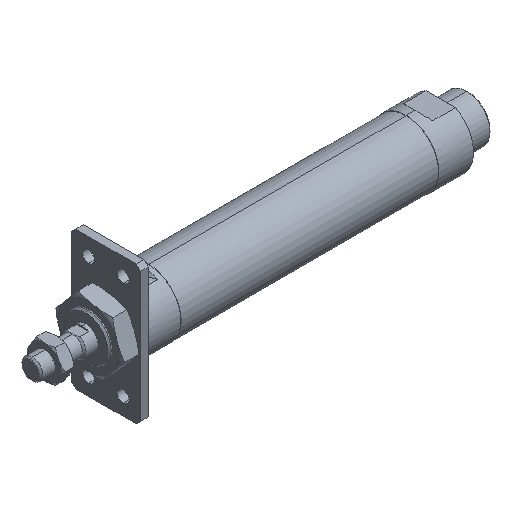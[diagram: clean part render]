
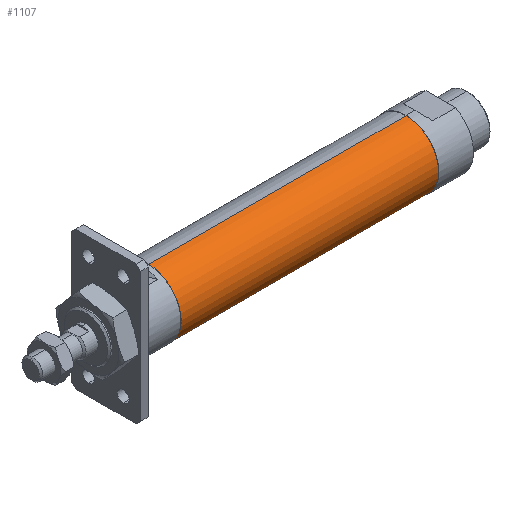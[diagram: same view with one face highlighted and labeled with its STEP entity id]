
A CAD part, isometric view. The second image highlights one B-rep face of the part: STEP entity #1107.
In plain terms, the highlighted cylindrical face has radius 18.8 mm (diameter 37.6 mm), a partial arc.
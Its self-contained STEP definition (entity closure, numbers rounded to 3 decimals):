
#313 = DIRECTION ( 'NONE',  ( 0., 0., 1. ) ) ;
#348 = DIRECTION ( 'NONE',  ( -1., 0., 0. ) ) ;
#383 = AXIS2_PLACEMENT_3D ( 'NONE', #2916, #348, #898 ) ;
#775 = VERTEX_POINT ( 'NONE', #2382 ) ;
#845 = ORIENTED_EDGE ( 'NONE', *, *, #3693, .F. ) ;
#898 = DIRECTION ( 'NONE',  ( 0., 0., 1. ) ) ;
#932 = DIRECTION ( 'NONE',  ( -1., 0., 0. ) ) ;
#1087 = CARTESIAN_POINT ( 'NONE',  ( 217., 0., 0. ) ) ;
#1107 = ADVANCED_FACE ( 'NONE', ( #3056 ), #2018, .T. ) ;
#1132 = CARTESIAN_POINT ( 'NONE',  ( 68., 0., 18.8 ) ) ;
#1258 = EDGE_CURVE ( 'NONE', #775, #1863, #2419, .T. ) ;
#1644 = VERTEX_POINT ( 'NONE', #4189 ) ;
#1694 = AXIS2_PLACEMENT_3D ( 'NONE', #3454, #3688, #3044 ) ;
#1810 = VECTOR ( 'NONE', #932, 1000. ) ;
#1863 = VERTEX_POINT ( 'NONE', #1985 ) ;
#1985 = CARTESIAN_POINT ( 'NONE',  ( 217., 0., 18.8 ) ) ;
#2018 = CYLINDRICAL_SURFACE ( 'NONE', #1694, 18.8 ) ;
#2112 = AXIS2_PLACEMENT_3D ( 'NONE', #1087, #2202, #313 ) ;
#2120 = DIRECTION ( 'NONE',  ( -1., 0., 0. ) ) ;
#2154 = VECTOR ( 'NONE', #2120, 1000. ) ;
#2202 = DIRECTION ( 'NONE',  ( -1., 0., 0. ) ) ;
#2382 = CARTESIAN_POINT ( 'NONE',  ( 217., 0., -18.8 ) ) ;
#2419 = CIRCLE ( 'NONE', #2112, 18.8 ) ;
#2763 = EDGE_LOOP ( 'NONE', ( #3001, #3628, #3039, #845 ) ) ;
#2916 = CARTESIAN_POINT ( 'NONE',  ( 68., 0., 0. ) ) ;
#2959 = VERTEX_POINT ( 'NONE', #1132 ) ;
#3001 = ORIENTED_EDGE ( 'NONE', *, *, #3467, .F. ) ;
#3002 = LINE ( 'NONE', #3842, #1810 ) ;
#3039 = ORIENTED_EDGE ( 'NONE', *, *, #3461, .T. ) ;
#3044 = DIRECTION ( 'NONE',  ( 0., 0., 1. ) ) ;
#3056 = FACE_OUTER_BOUND ( 'NONE', #2763, .T. ) ;
#3150 = CARTESIAN_POINT ( 'NONE',  ( -1.784, 0., -18.8 ) ) ;
#3454 = CARTESIAN_POINT ( 'NONE',  ( -1.784, 0., 0. ) ) ;
#3461 = EDGE_CURVE ( 'NONE', #1863, #2959, #3002, .T. ) ;
#3467 = EDGE_CURVE ( 'NONE', #775, #1644, #3648, .T. ) ;
#3586 = CIRCLE ( 'NONE', #383, 18.8 ) ;
#3628 = ORIENTED_EDGE ( 'NONE', *, *, #1258, .T. ) ;
#3648 = LINE ( 'NONE', #3150, #2154 ) ;
#3688 = DIRECTION ( 'NONE',  ( -1., 0., 0. ) ) ;
#3693 = EDGE_CURVE ( 'NONE', #1644, #2959, #3586, .T. ) ;
#3842 = CARTESIAN_POINT ( 'NONE',  ( -1.784, 0., 18.8 ) ) ;
#4189 = CARTESIAN_POINT ( 'NONE',  ( 68., 0., -18.8 ) ) ;
